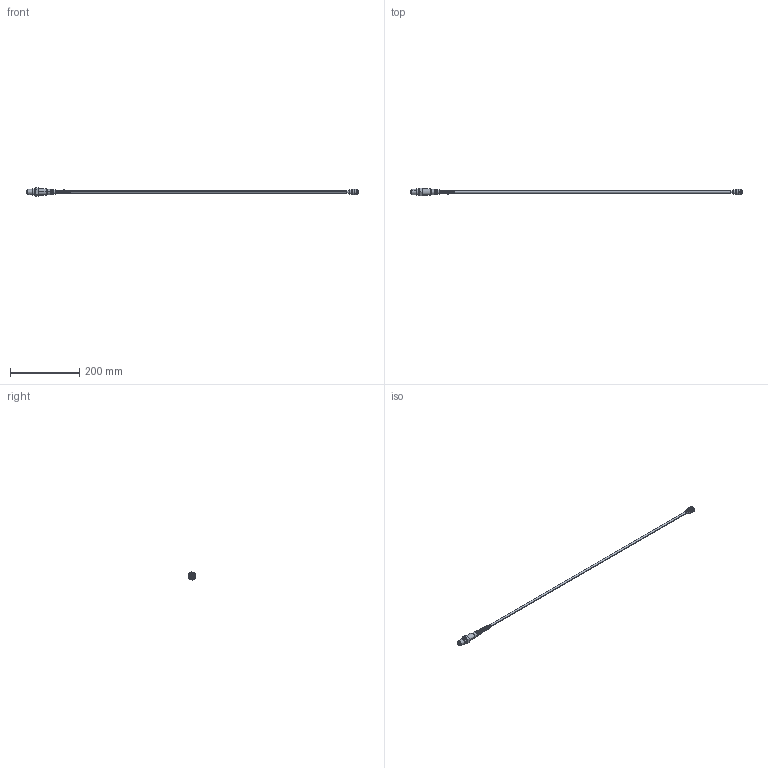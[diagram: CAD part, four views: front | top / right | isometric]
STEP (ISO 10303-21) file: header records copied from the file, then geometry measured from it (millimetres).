
FILE_DESCRIPTION(('CATIA V5 STEP Exchange'),'2;1');
FILE_NAME('\\bosch.com\dfsrb\DfsDE\DIV\BEG\MSD\Gruppen\MSDP\01_Austausch\!Limitierte Beschäftigte\Praktikanten\HnA\3D Modelle Katalog\Neu\Sensoren\Fahrzeugdynamik\LSU_4.9_Motorsport_Connector_AS_6-07-35PN.stp','2014-02-21T10:19:31+00:00',('none'),('none'),'CATIA Version 5 Release 19 SP 9 (IN-10)','CATIA V5 STEP AP214','none');
FILE_SCHEMA(('AUTOMOTIVE_DESIGN { 1 0 10303 214 1 1 1 1 }'));
Length unit declared in the file: millimetre
Products named in the file (1): LSU_4.9_Motorsport_Connector_AS_6-07-35PN
Bounding box: 955.74 x 22.6 x 25.4 mm (x, y, z)
Volume: 51894.9 mm3; surface area: 26284 mm2
Topology: 1 solids, 1 shells, 418 faces, 1114 edges, 724 vertices
Faces by surface type: cylinder 150, plane 108, torus 106, sphere 30, cone 18, revolution 4, bspline 2
Entity records: 16327 total; most frequent: CARTESIAN_POINT 3386, ORIENTED_EDGE 2168, DIRECTION 1754, EDGE_CURVE 1084, AXIS2_PLACEMENT_3D 1052, VERTEX_POINT 724, CIRCLE 661, EDGE_LOOP 480
